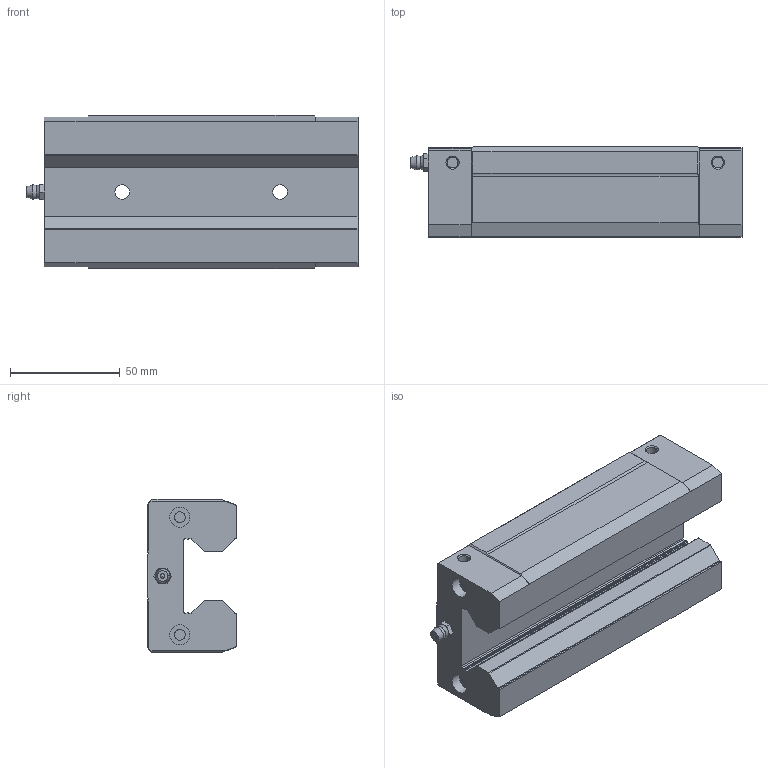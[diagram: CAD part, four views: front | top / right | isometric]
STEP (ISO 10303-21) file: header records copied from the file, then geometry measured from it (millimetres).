
FILE_DESCRIPTION(/* description */ ('STEP AP214'),/* implementation_level */ '2;1');
FILE_NAME(/* name */ 'ERG35P6LVC1N0______CAD_NO_(A-MT61)',/* time_stamp */ '2026-05-18T11:26:57+02:00',/* author */ ('License CC BY-ND 4.0'),/* organization */ ('CADENAS'),/* preprocessor_version */ 'ST-DEVELOPER v20',/* originating_system */ 'PARTsolutions',/* authorisation */ ' ');
FILE_SCHEMA (('AUTOMOTIVE_DESIGN {1 0 10303 214 3 1 1}'));
Length unit declared in the file: millimetre
Products named in the file (3): ERG35P6LVC1N0______CAD_NO_(A-MT61); ERG35LV01 Slider; hsr_ftht_A-M6F_grease_nipple_joint
Assembly tree (2 placements, depth 2):
  ERG35P6LVC1N0______CAD_NO_(A-MT61)
    ERG35LV01 Slider
    hsr_ftht_A-M6F_grease_nipple_joint
Bounding box: 151.41 x 41 x 70 mm (x, y, z)
Volume: 298347.3 mm3; surface area: 47779.1 mm2
Topology: 2 solids, 2 shells, 167 faces, 413 edges, 268 vertices
Faces by surface type: plane 98, cylinder 41, cone 25, sphere 2, torus 1
Full cylindrical faces by diameter (mm): 4.917 x6, 5 x4, 6 x1, 6.647 x6, 9.2 x4, 10.2 x2
Entity records: 4713 total; most frequent: CARTESIAN_POINT 860, DIRECTION 782, ORIENTED_EDGE 712, EDGE_CURVE 356, AXIS2_PLACEMENT_3D 280, VERTEX_POINT 260, FACE_BOUND 238, EDGE_LOOP 234
